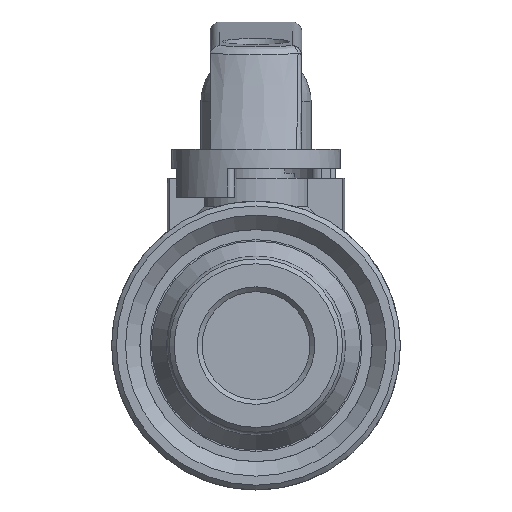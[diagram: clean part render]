
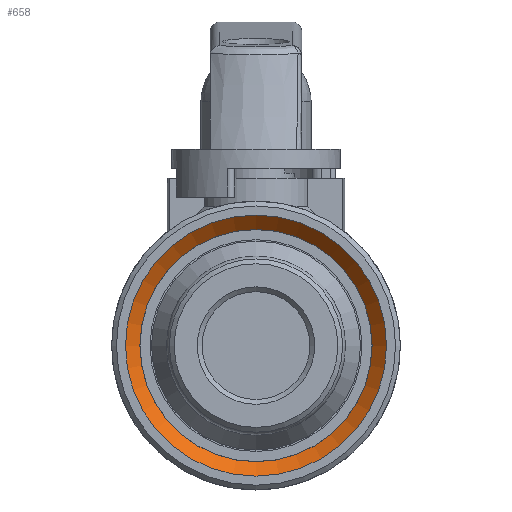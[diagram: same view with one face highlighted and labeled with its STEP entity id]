
A CAD part, front view. The second image highlights one B-rep face of the part: STEP entity #658.
In plain terms, the highlighted conical face has half-angle 45 degrees and reference radius 12.809 mm.
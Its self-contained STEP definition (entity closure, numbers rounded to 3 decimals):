
#658=ADVANCED_FACE('',(#5543,#5545),#5547,.F.);
#5543=FACE_OUTER_BOUND('',#5544,.T.);
#5544=EDGE_LOOP('',(#9666));
#5545=FACE_OUTER_BOUND('',#5546,.T.);
#5546=EDGE_LOOP('',(#9667));
#5547=CONICAL_SURFACE('',#5548,12.809,0.785);
#5548=AXIS2_PLACEMENT_3D('',#5549,#5550,#5551);
#5549=CARTESIAN_POINT('',(0.,1.45,0.));
#5550=DIRECTION('',(0.,-1.,0.));
#5551=DIRECTION('',(-1.,0.,0.));
#9666=ORIENTED_EDGE('',*,*,#11321,.F.);
#9667=ORIENTED_EDGE('',*,*,#11322,.T.);
#11321=EDGE_CURVE('',#14021,#14021,#14022,.T.);
#11322=EDGE_CURVE('',#14023,#14023,#14024,.T.);
#14021=VERTEX_POINT('',#22320);
#14022=CIRCLE('',#22321,13.559);
#14023=VERTEX_POINT('',#22325);
#14024=CIRCLE('',#22326,12.059);
#22320=CARTESIAN_POINT('',(13.559,0.7,0.));
#22321=AXIS2_PLACEMENT_3D('',#22322,#22323,#22324);
#22322=CARTESIAN_POINT('',(0.,0.7,0.));
#22323=DIRECTION('',(0.,1.,0.));
#22324=DIRECTION('',(1.,0.,0.));
#22325=CARTESIAN_POINT('',(12.059,2.2,0.));
#22326=AXIS2_PLACEMENT_3D('',#22327,#22328,#22329);
#22327=CARTESIAN_POINT('',(0.,2.2,0.));
#22328=DIRECTION('',(0.,1.,0.));
#22329=DIRECTION('',(1.,0.,0.));
